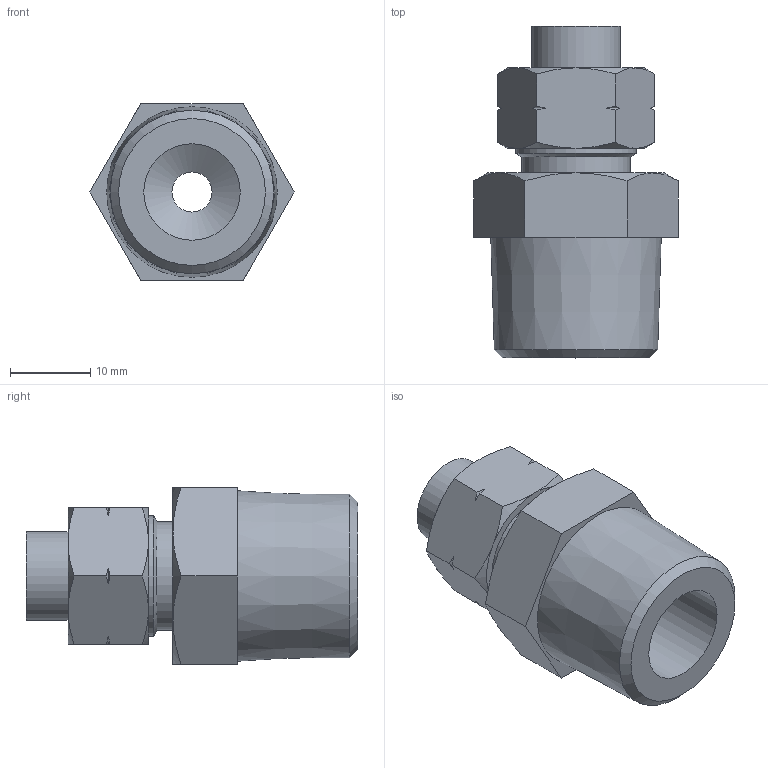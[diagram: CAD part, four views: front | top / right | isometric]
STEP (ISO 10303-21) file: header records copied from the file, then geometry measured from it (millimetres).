
FILE_DESCRIPTION((''),'2;1');
FILE_NAME('D:\INVENTOR\[New Inventor]\CDC Products 3D Ass''y\Two-Touch Fittings\Metric\CC\CC10-6.5--04.stp','2009-02-25T17:31:53',('Microsoft'),(''),'Autodesk Inventor 2008','Autodesk Inventor 2008','');
FILE_SCHEMA(('AUTOMOTIVE_DESIGN { 1 0 10303 214 1 1 1 1 }'));
Length unit declared in the file: millimetre
Products named in the file (1): CC10-6
Bounding box: 25.4 x 41.27 x 22 mm (x, y, z)
Volume: 8212.3 mm3; surface area: 5101.4 mm2
Topology: 1 solids, 1 shells, 62 faces, 138 edges, 84 vertices
Faces by surface type: cone 33, plane 20, cylinder 6, bspline 2, torus 1
Full cylindrical faces by diameter (mm): 5 x1, 6.3 x1, 10.2 x1, 11 x1, 13.5 x1, 15 x1
Entity records: 1628 total; most frequent: CARTESIAN_POINT 427, ORIENTED_EDGE 252, DIRECTION 230, EDGE_CURVE 126, AXIS2_PLACEMENT_3D 103, VERTEX_POINT 84, EDGE_LOOP 82, FACE_OUTER_BOUND 62
